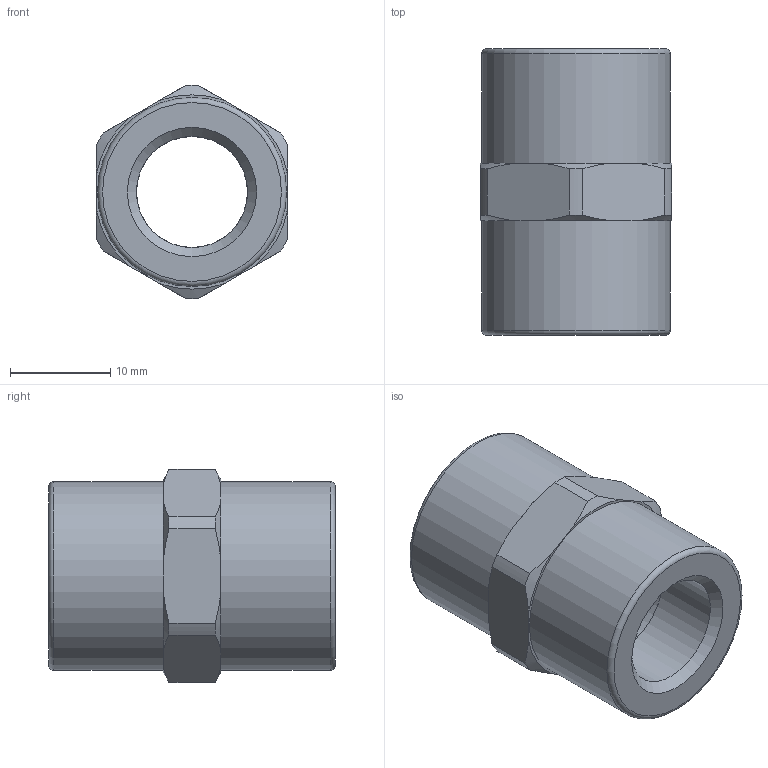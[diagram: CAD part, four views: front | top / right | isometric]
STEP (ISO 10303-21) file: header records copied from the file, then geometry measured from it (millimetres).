
FILE_DESCRIPTION(/* description */ (''),/* implementation_level */ '2;1');
FILE_NAME(/* name */ 'C:/Users/drich/Desktop/C-14 v1.step',/* time_stamp */ '2020-02-09T10:55:57-06:00',/* author */ (''),/* organization */ (''),/* preprocessor_version */ 'ST-DEVELOPER v18',/* originating_system */ 'Autodesk Translation Framework v8.12.0.6',/* authorisation */ '');
FILE_SCHEMA (('AUTOMOTIVE_DESIGN { 1 0 10303 214 3 1 1 }'));
Length unit declared in the file: inch
Products named in the file (1): C-14
Bounding box: 19.05 x 28.57 x 21.25 mm (x, y, z)
Volume: 5367.6 mm3; surface area: 3071.8 mm2
Topology: 1 solids, 1 shells, 39 faces, 107 edges, 74 vertices
Faces by surface type: cone 14, plane 12, cylinder 11, torus 2
Full cylindrical faces by diameter (mm): 11.049 x1, 11.1 x2, 18.847 x2
Entity records: 1299 total; most frequent: CARTESIAN_POINT 269, DIRECTION 215, ORIENTED_EDGE 214, EDGE_CURVE 107, AXIS2_PLACEMENT_3D 92, VERTEX_POINT 74, CIRCLE 52, EDGE_LOOP 45
